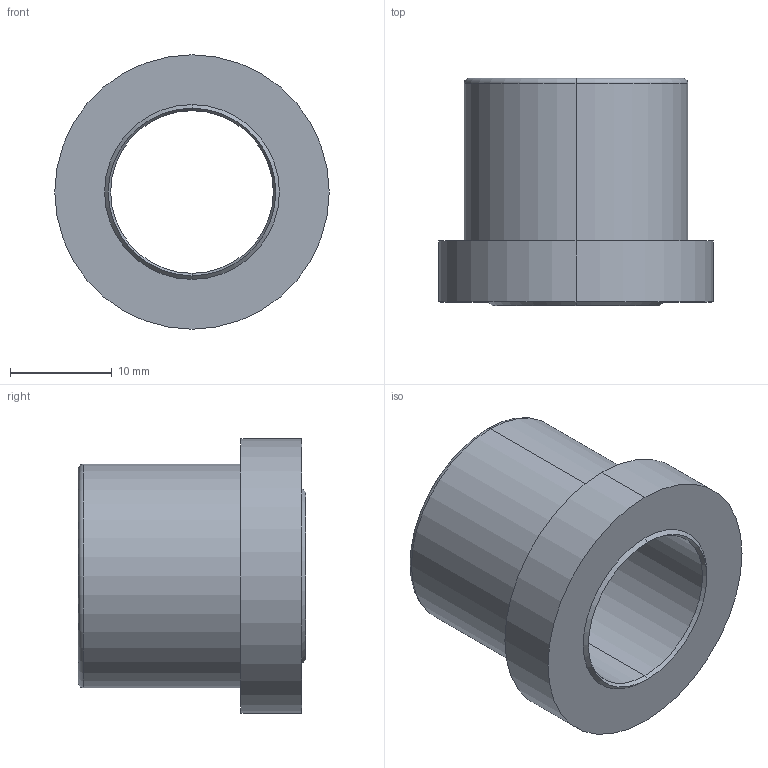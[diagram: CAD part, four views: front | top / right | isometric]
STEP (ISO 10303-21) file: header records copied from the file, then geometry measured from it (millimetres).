
FILE_DESCRIPTION (( 'STEP AP214' ), '1' );
FILE_NAME ('BR11W 16 x 22.STEP', '2020-07-16T14:09:19', ( 'August' ), ( '' ), 'SwSTEP 2.0', 'SolidWorks 2018', '' );
FILE_SCHEMA (( 'AUTOMOTIVE_DESIGN' ));
Length unit declared in the file: millimetre
Products named in the file (1): BR11W 16 x 22
Bounding box: 27 x 22.36 x 27 mm (x, y, z)
Volume: 5089.6 mm3; surface area: 3452 mm2
Topology: 1 solids, 1 shells, 17 faces, 34 edges, 20 vertices
Faces by surface type: cone 6, cylinder 6, plane 3, torus 2
Entity records: 484 total; most frequent: DIRECTION 92, CARTESIAN_POINT 72, ORIENTED_EDGE 68, AXIS2_PLACEMENT_3D 40, EDGE_CURVE 34, CIRCLE 22, EDGE_LOOP 20, VERTEX_POINT 20
